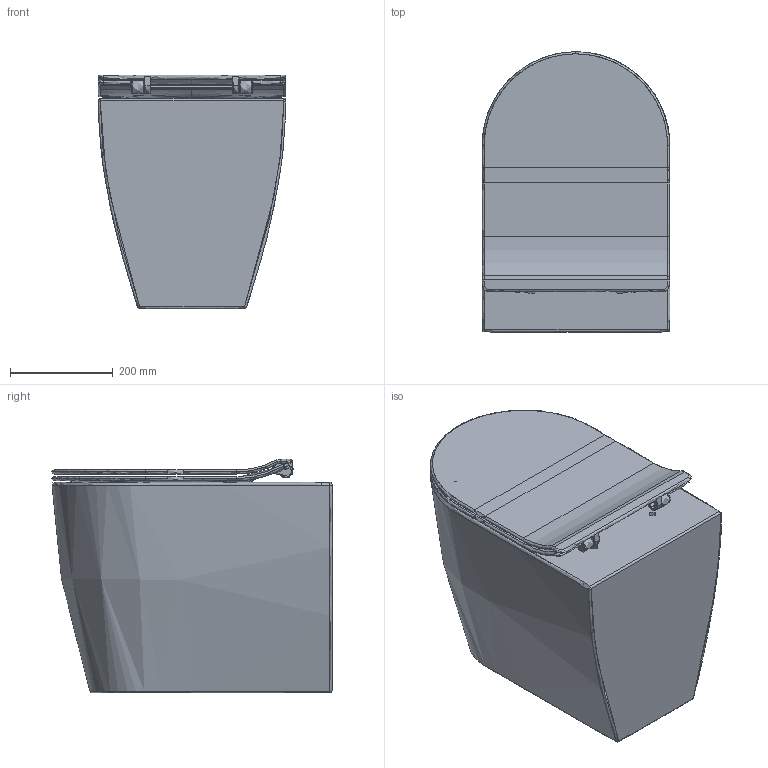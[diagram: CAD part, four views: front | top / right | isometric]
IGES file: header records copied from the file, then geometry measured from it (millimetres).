
Global section: file name: C:\Users\Massimiliano\Desktop\moon\MOON wc terra art. 5522\MOON wc terra art. 5522.igs; native system: Rhinoceros ( Mar 28 2013 ); preprocessor: Trout Lake IGES 012 Mar 28 2013; date: 171127.100308; units: millimetre
Bounding box: 365.6 x 544.91 x 455.2 mm (x, y, z)
Surface area: 1861577.7 mm2 (no closed solid volume)
Topology: 0 solids, 0 shells, 566 faces, 3279 edges, 3243 vertices
Faces by surface type: bspline 566
